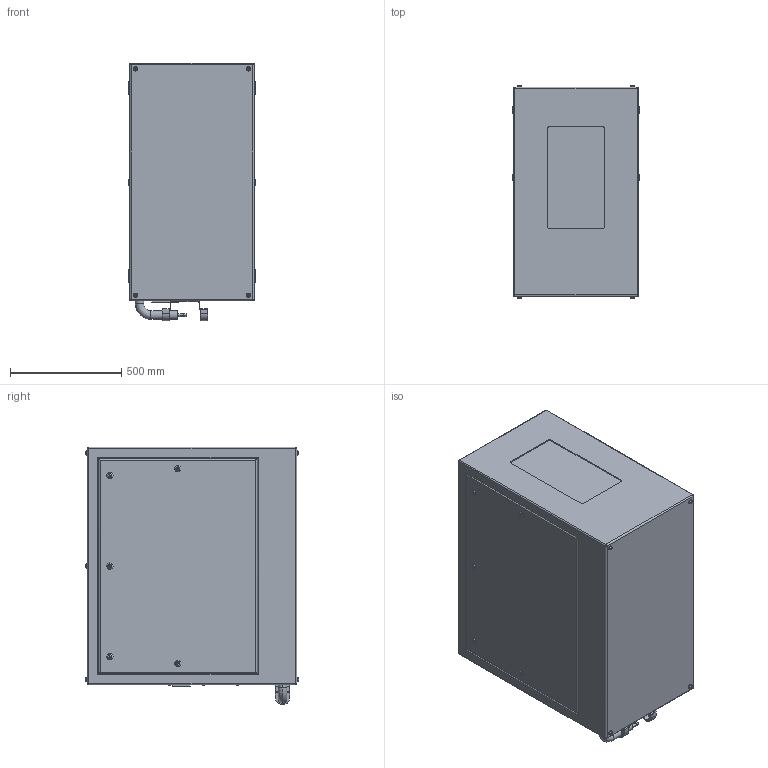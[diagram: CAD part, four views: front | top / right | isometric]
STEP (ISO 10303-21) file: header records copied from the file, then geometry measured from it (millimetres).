
FILE_DESCRIPTION (( 'STEP AP214' ), '1' );
FILE_NAME ('Oasis 59.150.P R02.STEP', '2022-08-27T16:01:33', ( '' ), ( '' ), 'SwSTEP 2.0', 'SolidWorks 2020', '' );
FILE_SCHEMA (( 'AUTOMOTIVE_DESIGN' ));
Length unit declared in the file: inch
Products named in the file (1): Oasis 59.150.P R02
Bounding box: 571.5 x 957.07 x 1155.7 mm (x, y, z)
Volume: 559310845 mm3; surface area: 4717412.9 mm2
Topology: 2 solids, 8 shells, 555 faces, 1265 edges, 802 vertices
Faces by surface type: plane 307, cylinder 186, torus 54, bspline 8
Entity records: 21388 total; most frequent: CARTESIAN_POINT 3135, DIRECTION 2763, ORIENTED_EDGE 2514, EDGE_CURVE 1257, AXIS2_PLACEMENT_3D 990, VERTEX_POINT 802, VECTOR 783, LINE 783
